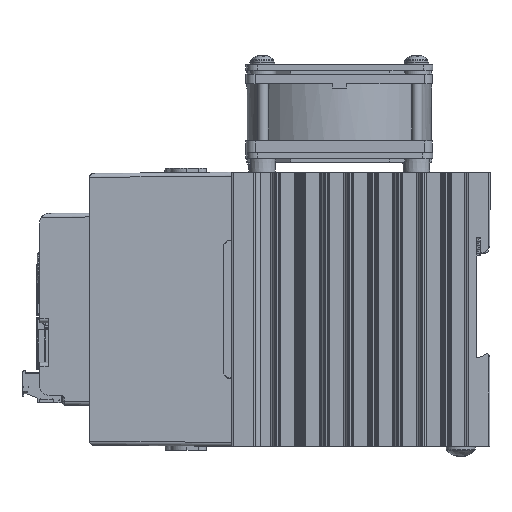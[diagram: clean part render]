
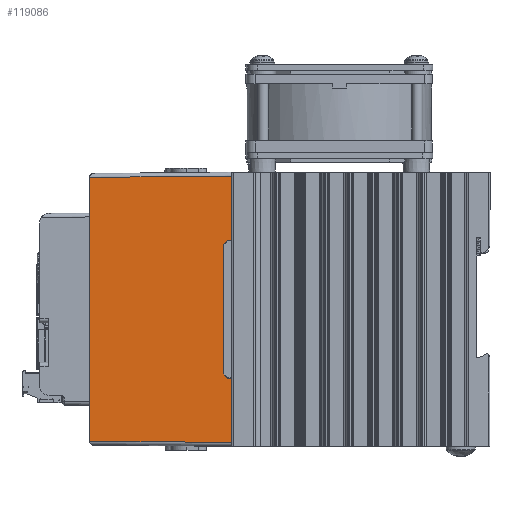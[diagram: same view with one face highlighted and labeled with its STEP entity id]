
A CAD part, left-side view. The second image highlights one B-rep face of the part: STEP entity #119086.
In plain terms, the highlighted planar face has unit normal (-1, 0.009, 0) as drawn and (1, 0, 0.009) by its records, which use the part's own axes.
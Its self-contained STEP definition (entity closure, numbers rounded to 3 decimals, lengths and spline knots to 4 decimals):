
#13182=FACE_OUTER_BOUND('',#19748,.T.);
#19748=EDGE_LOOP('',(#102292,#102293,#102294,#102295,#102296,#102297,#102298,
#102299,#102300,#102301));
#31450=LINE('',#203977,#44310);
#31580=LINE('',#204762,#44440);
#31586=LINE('',#204774,#44446);
#31590=LINE('',#204780,#44450);
#31592=LINE('',#204784,#44452);
#31594=LINE('',#204788,#44454);
#31595=LINE('',#204791,#44455);
#31940=LINE('',#205549,#44800);
#31942=LINE('',#205555,#44802);
#31943=LINE('',#205556,#44803);
#44310=VECTOR('',#154395,0.3937);
#44440=VECTOR('',#154771,0.3937);
#44446=VECTOR('',#154781,0.3937);
#44450=VECTOR('',#154789,0.3937);
#44452=VECTOR('',#154793,0.3937);
#44454=VECTOR('',#154797,0.3937);
#44455=VECTOR('',#154800,0.3937);
#44800=VECTOR('',#155525,0.3937);
#44802=VECTOR('',#155533,0.3937);
#44803=VECTOR('',#155534,0.3937);
#55447=VERTEX_POINT('',#203974);
#55448=VERTEX_POINT('',#203976);
#55551=VERTEX_POINT('',#204759);
#55552=VERTEX_POINT('',#204761);
#55555=VERTEX_POINT('',#204771);
#55556=VERTEX_POINT('',#204773);
#55557=VERTEX_POINT('',#204782);
#55558=VERTEX_POINT('',#204786);
#55559=VERTEX_POINT('',#204790);
#55759=VERTEX_POINT('',#205554);
#71140=EDGE_CURVE('',#55448,#55447,#31450,.T.);
#71328=EDGE_CURVE('',#55552,#55551,#31580,.T.);
#71334=EDGE_CURVE('',#55556,#55555,#31586,.T.);
#71338=EDGE_CURVE('',#55551,#55556,#31590,.T.);
#71340=EDGE_CURVE('',#55555,#55557,#31592,.T.);
#71342=EDGE_CURVE('',#55557,#55558,#31594,.T.);
#71343=EDGE_CURVE('',#55559,#55552,#31595,.T.);
#71709=EDGE_CURVE('',#55559,#55447,#31940,.T.);
#71712=EDGE_CURVE('',#55558,#55759,#31942,.T.);
#71713=EDGE_CURVE('',#55448,#55759,#31943,.T.);
#102292=ORIENTED_EDGE('',*,*,#71342,.T.);
#102293=ORIENTED_EDGE('',*,*,#71712,.T.);
#102294=ORIENTED_EDGE('',*,*,#71713,.F.);
#102295=ORIENTED_EDGE('',*,*,#71140,.T.);
#102296=ORIENTED_EDGE('',*,*,#71709,.F.);
#102297=ORIENTED_EDGE('',*,*,#71343,.T.);
#102298=ORIENTED_EDGE('',*,*,#71328,.T.);
#102299=ORIENTED_EDGE('',*,*,#71338,.T.);
#102300=ORIENTED_EDGE('',*,*,#71334,.T.);
#102301=ORIENTED_EDGE('',*,*,#71340,.T.);
#113514=PLANE('',#128095);
#119086=ADVANCED_FACE('',(#13182),#113514,.T.);
#128095=AXIS2_PLACEMENT_3D('',#205553,#155531,#155532);
#154395=DIRECTION('',(0.,-1.,0.));
#154771=DIRECTION('',(-0.009,0.009,1.));
#154781=DIRECTION('',(0.,1.,0.));
#154789=DIRECTION('',(-0.006,0.71,0.704));
#154793=DIRECTION('',(0.006,0.71,-0.704));
#154797=DIRECTION('',(0.009,0.009,-1.));
#154800=DIRECTION('',(0.,1.,0.));
#155525=DIRECTION('',(-0.009,0.009,1.));
#155531=DIRECTION('center_axis',(1.,0.,
0.009));
#155532=DIRECTION('ref_axis',(0.,1.,0.));
#155533=DIRECTION('',(0.,1.,0.));
#155534=DIRECTION('',(0.009,0.009,-1.));
#203974=CARTESIAN_POINT('',(1.3842,0.0658,1.811));
#203976=CARTESIAN_POINT('',(1.3842,3.4342,1.811));
#203977=CARTESIAN_POINT('',(1.3842,0.,1.811));
#204759=CARTESIAN_POINT('',(1.3995,0.8705,0.0521));
#204761=CARTESIAN_POINT('',(1.4,0.87,0.));
#204762=CARTESIAN_POINT('',(1.3996,0.8704,0.0436));
#204771=CARTESIAN_POINT('',(1.3991,2.5762,0.105));
#204773=CARTESIAN_POINT('',(1.3991,0.9238,0.105));
#204774=CARTESIAN_POINT('',(1.3991,3.0381,0.105));
#204780=CARTESIAN_POINT('',(1.3937,1.5503,0.726));
#204782=CARTESIAN_POINT('',(1.3995,2.6295,0.0521));
#204784=CARTESIAN_POINT('',(1.4015,2.859,-0.1754));
#204786=CARTESIAN_POINT('',(1.4,2.63,0.));
#204788=CARTESIAN_POINT('',(1.4,2.63,0.0023));
#204790=CARTESIAN_POINT('',(1.4,0.05,0.));
#204791=CARTESIAN_POINT('',(1.4,0.,0.));
#205549=CARTESIAN_POINT('',(1.3999,0.0501,0.0148));
#205553=CARTESIAN_POINT('Origin',(1.4,3.5,0.));
#205554=CARTESIAN_POINT('',(1.4,3.45,0.));
#205555=CARTESIAN_POINT('',(1.4,0.,0.));
#205556=CARTESIAN_POINT('',(1.4,3.45,0.0057));
